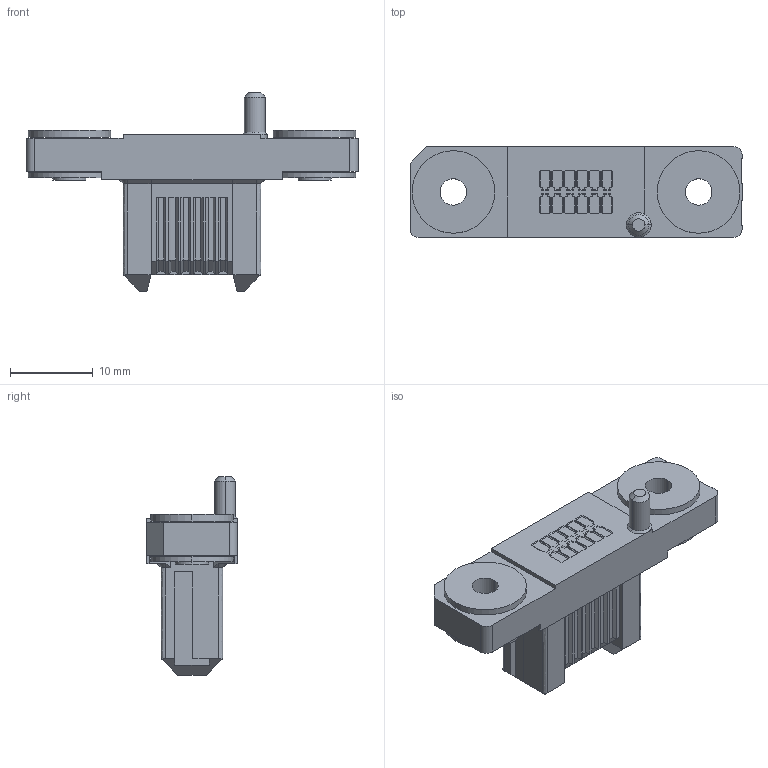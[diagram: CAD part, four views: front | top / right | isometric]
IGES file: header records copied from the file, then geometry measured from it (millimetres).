
Start section: Elysium IGES Interface
Bounding box: 40.2 x 11 x 24 mm (x, y, z)
Volume: 3475.5 mm3; surface area: 2800.5 mm2
Topology: 1 solids, 1 shells, 432 faces, 1103 edges, 695 vertices
Faces by surface type: bspline 432
